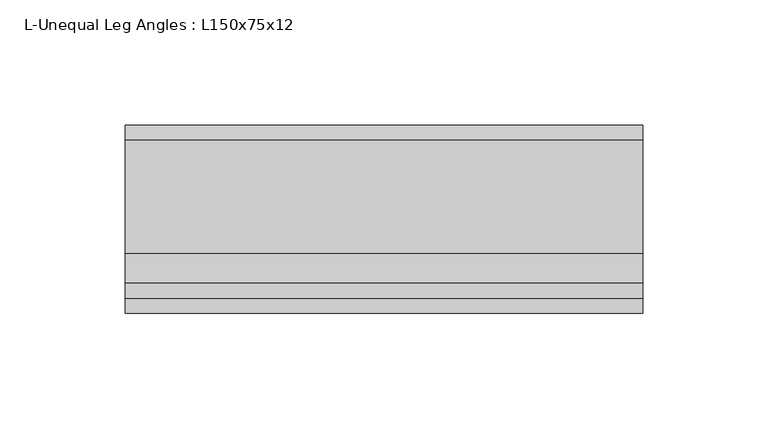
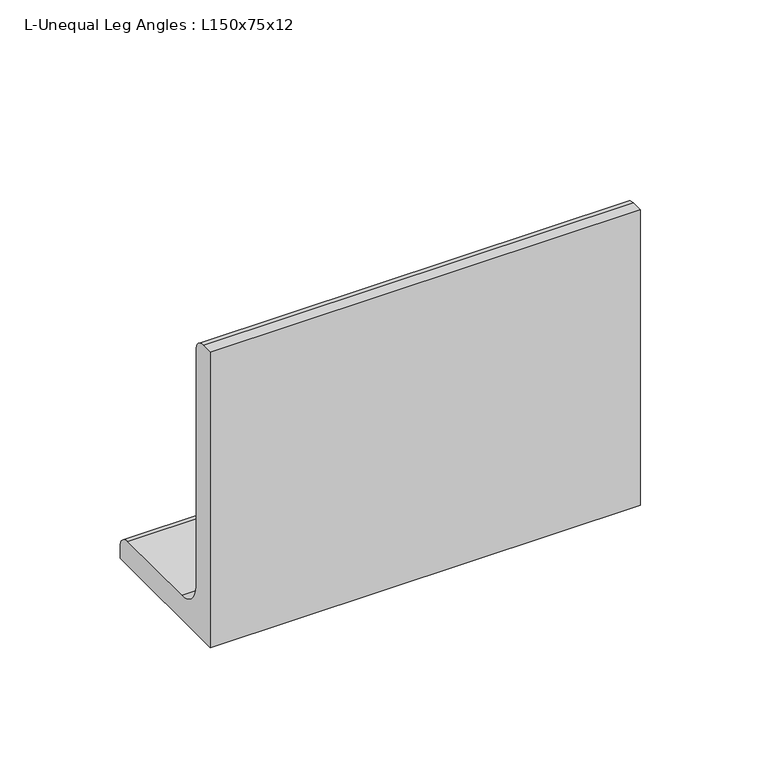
"""IFC4 building model written with IfcOpenShell, lengths in millimetres: beam geometry, L-Unequal Leg Angles : L150x75x12."""

from ifc_helpers import new_model, si_unit, point, frame, frame_2d, origin, place, context, project, spatial, polyline, circle_curve, trimmed, segment, composite_curve, outline, extrude, source, transform, mapped, element, save


def l_unequal_leg_angles_l150x75x12_5957f89b(model_context):
    return source(origin(), model_context, "Body", "SweptSolid", [
        extrude(outline(composite_curve([segment(polyline([(-16.9, -54.0), (-16.9, 96.0), (-10.9, 96.0)]), True, "CONTINUOUS"), segment(trimmed(circle_curve(frame_2d((-10.9, 90.0)), 6.0), [point((-10.9, 96.0))], [point((-4.9, 90.0))], False, "CARTESIAN"), True, "CONTINUOUS"), segment(polyline([(-4.9, 90.0), (-4.9, -30.0)]), True, "CONTINUOUS"), segment(trimmed(circle_curve(frame_2d((7.1, -30.0)), 12.0), [point((-4.9, -30.0))], [point((7.1, -42.0))], True, "CARTESIAN"), True, "CONTINUOUS"), segment(polyline([(7.1, -42.0), (52.1, -42.0)]), True, "CONTINUOUS"), segment(trimmed(circle_curve(frame_2d((52.1, -48.0)), 6.0), [point((52.1, -42.0))], [point((58.1, -48.0))], False, "CARTESIAN"), True, "CONTINUOUS"), segment(polyline([(58.1, -48.0), (58.1, -54.0), (-16.9, -54.0)]), True, "CONTINUOUS")], self_intersect=False)), frame((-103.1509531, 0.0, 0.0), z_axis=(1.0, 0.0, 0.0), x_axis=(0.0, 1.0, 0.0)), (0.0, 0.0, 1.0), 206.4),
    ])


if __name__ == "__main__":
    model = new_model("IFC4")
    model_context = context("Model", 3, world=origin())
    ifc_project = project(units=[si_unit("LENGTHUNIT", "METRE", prefix="MILLI")], contexts=[model_context])
    site = spatial("IfcSite", under=ifc_project)
    building = spatial("IfcBuilding", under=site)
    placement = place(None, origin())
    l_unequal_leg_angles_l150x75x12_shape = l_unequal_leg_angles_l150x75x12_5957f89b(model_context)
    element("IfcBeam", 1, ObjectType="L-Unequal Leg Angles : L150x75x12", at=placement, inside=building, context=model_context, shape_type="MappedRepresentation", body=[
        mapped(l_unequal_leg_angles_l150x75x12_shape, transform((0.0, 0.0, 0.0), x_axis=(1.0, 0.0, 0.0), y_axis=(0.0, 1.0, 0.0), z_axis=(0.0, 0.0, 1.0))),
    ])
    save(model, "model.ifc")
